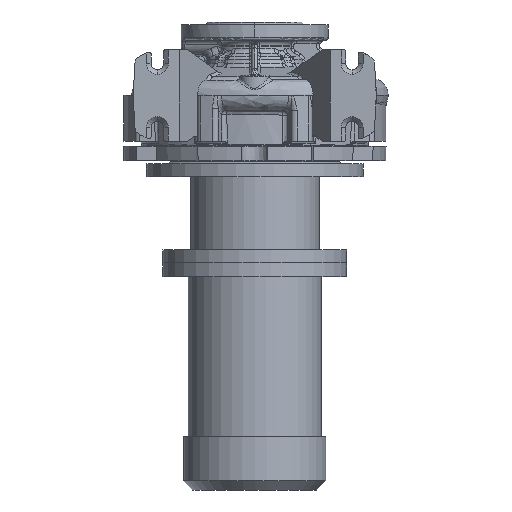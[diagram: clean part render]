
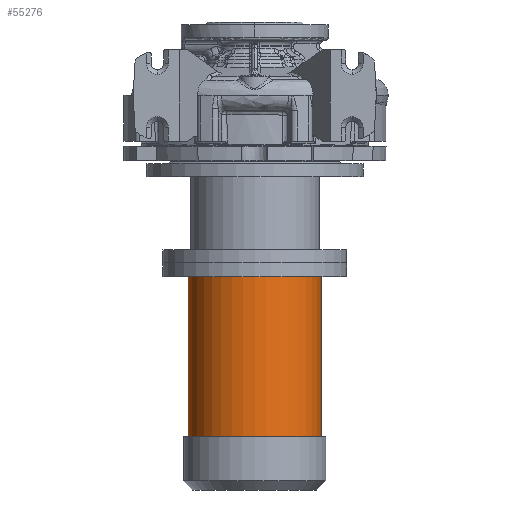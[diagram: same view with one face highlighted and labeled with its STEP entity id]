
A CAD part, front view. The second image highlights one B-rep face of the part: STEP entity #55276.
In plain terms, the highlighted cylindrical face has radius 72.5 mm (diameter 145 mm), a partial arc.
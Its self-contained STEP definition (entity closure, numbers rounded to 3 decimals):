
#4382 = ORIENTED_EDGE ( 'NONE', *, *, #29090, .F. ) ;
#4866 = LINE ( 'NONE', #41327, #10633 ) ;
#4978 = CIRCLE ( 'NONE', #45896, 72.5 ) ;
#6663 = CIRCLE ( 'NONE', #52050, 72.5 ) ;
#6832 = VERTEX_POINT ( 'NONE', #20253 ) ;
#7090 = DIRECTION ( 'NONE',  ( 0., 0., -1. ) ) ;
#7161 = ORIENTED_EDGE ( 'NONE', *, *, #59133, .F. ) ;
#7537 = DIRECTION ( 'NONE',  ( -1., 0., 0. ) ) ;
#8898 = CYLINDRICAL_SURFACE ( 'NONE', #10876, 72.5 ) ;
#10633 = VECTOR ( 'NONE', #36107, 1000. ) ;
#10876 = AXIS2_PLACEMENT_3D ( 'NONE', #17567, #7090, #7537 ) ;
#12065 = CARTESIAN_POINT ( 'NONE',  ( -72.5, 0., -429.8 ) ) ;
#15335 = ORIENTED_EDGE ( 'NONE', *, *, #48460, .T. ) ;
#16628 = DIRECTION ( 'NONE',  ( 0., 0., -1. ) ) ;
#16697 = CARTESIAN_POINT ( 'NONE',  ( 0., 0., -371.8 ) ) ;
#17567 = CARTESIAN_POINT ( 'NONE',  ( 0., 0., -429.8 ) ) ;
#19716 = VECTOR ( 'NONE', #16628, 1000. ) ;
#20253 = CARTESIAN_POINT ( 'NONE',  ( 72.5, 0., -197.3 ) ) ;
#21947 = DIRECTION ( 'NONE',  ( -1., 0., 0. ) ) ;
#25514 = VERTEX_POINT ( 'NONE', #27408 ) ;
#27338 = ORIENTED_EDGE ( 'NONE', *, *, #66990, .T. ) ;
#27408 = CARTESIAN_POINT ( 'NONE',  ( -72.5, 0., -197.3 ) ) ;
#29090 = EDGE_CURVE ( 'NONE', #6832, #52886, #4866, .T. ) ;
#36107 = DIRECTION ( 'NONE',  ( 0., 0., -1. ) ) ;
#37490 = DIRECTION ( 'NONE',  ( 0., 0., -1. ) ) ;
#37601 = LINE ( 'NONE', #12065, #19716 ) ;
#38185 = CARTESIAN_POINT ( 'NONE',  ( 0., 0., -197.3 ) ) ;
#40154 = CARTESIAN_POINT ( 'NONE',  ( -72.5, 0., -371.8 ) ) ;
#41327 = CARTESIAN_POINT ( 'NONE',  ( 72.5, 0., -429.8 ) ) ;
#45896 = AXIS2_PLACEMENT_3D ( 'NONE', #38185, #37490, #64139 ) ;
#48460 = EDGE_CURVE ( 'NONE', #6832, #25514, #4978, .T. ) ;
#51204 = EDGE_LOOP ( 'NONE', ( #4382, #15335, #27338, #7161 ) ) ;
#52050 = AXIS2_PLACEMENT_3D ( 'NONE', #16697, #53132, #21947 ) ;
#52886 = VERTEX_POINT ( 'NONE', #65634 ) ;
#53132 = DIRECTION ( 'NONE',  ( 0., 0., -1. ) ) ;
#55276 = ADVANCED_FACE ( 'NONE', ( #60249 ), #8898, .T. ) ;
#59133 = EDGE_CURVE ( 'NONE', #52886, #60868, #6663, .T. ) ;
#60249 = FACE_OUTER_BOUND ( 'NONE', #51204, .T. ) ;
#60868 = VERTEX_POINT ( 'NONE', #40154 ) ;
#64139 = DIRECTION ( 'NONE',  ( -1., 0., 0. ) ) ;
#65634 = CARTESIAN_POINT ( 'NONE',  ( 72.5, 0., -371.8 ) ) ;
#66990 = EDGE_CURVE ( 'NONE', #25514, #60868, #37601, .T. ) ;
